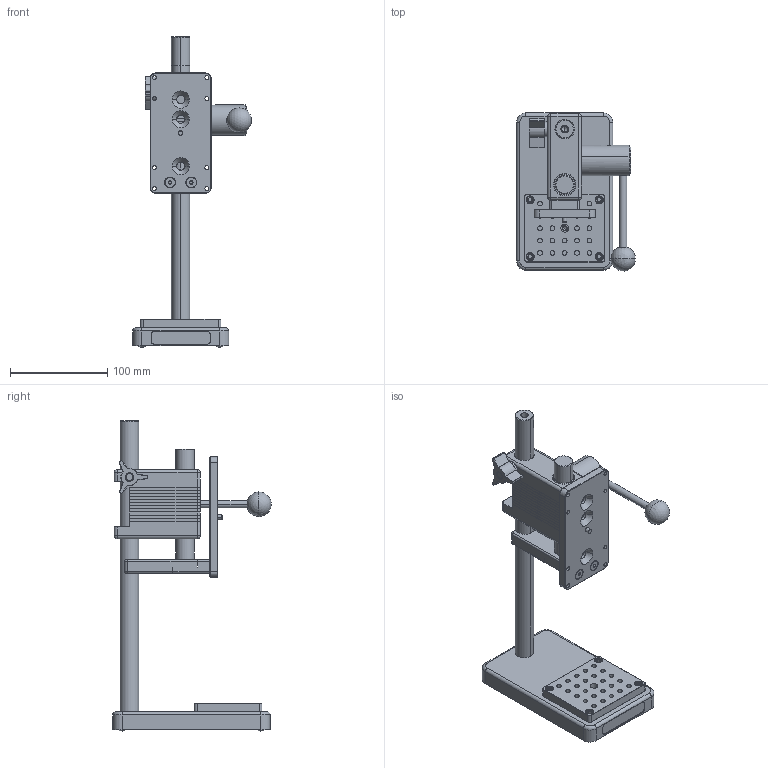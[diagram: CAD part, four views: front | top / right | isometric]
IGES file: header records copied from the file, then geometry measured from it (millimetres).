
Global section: file name: No Iges File Name specified; native system: Autodesk Inventor 2010; preprocessor: AutoDesk Inventor Iges Exporter R2010; author: mlampen; date: 20170621.145135; units: inch
Bounding box: 122.36 x 163.15 x 319.53 mm (x, y, z)
Volume: 760316.1 mm3; surface area: 128128.3 mm2
Topology: 2 solids, 2 shells, 852 faces, 1965 edges, 1173 vertices
Faces by surface type: plane 286, revolution 254, cylinder 170, cone 72, sphere 30, torus 28, bspline 12
Full cylindrical faces by diameter (mm): 2.474 x4
